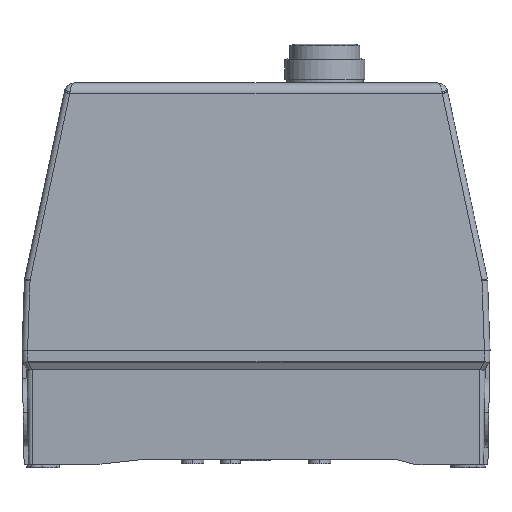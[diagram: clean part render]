
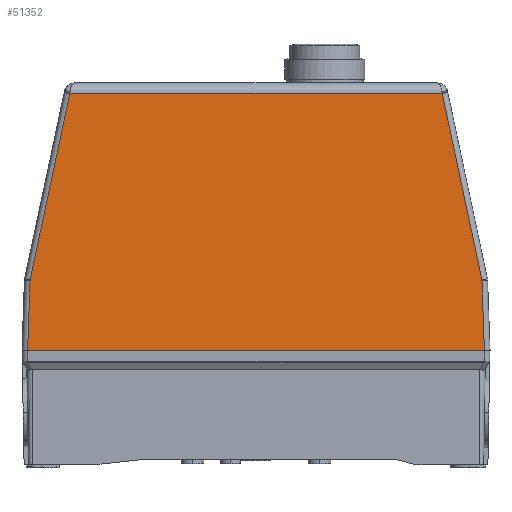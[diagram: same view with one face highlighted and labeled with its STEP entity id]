
A CAD part, left-side view. The second image highlights one B-rep face of the part: STEP entity #51352.
In plain terms, the highlighted planar face has unit normal (-1, 0, 0.023).
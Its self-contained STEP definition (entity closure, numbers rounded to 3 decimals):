
#46222=CARTESIAN_POINT('',(-41.939,-66.042,
-3.714));
#46239=DIRECTION('',(-0.023,0.035,-0.999));
#46240=VECTOR('',#46239,24.829);
#46241=CARTESIAN_POINT('',(-43.44,80.144,
-70.193));
#46242=LINE('',#46241,#46240);
#46243=CARTESIAN_POINT('',(-43.433,80.106,
-69.881));
#46244=CARTESIAN_POINT('',(-43.434,80.113,
-69.916));
#46245=CARTESIAN_POINT('',(-43.435,80.126,
-69.984));
#46246=CARTESIAN_POINT('',(-43.438,80.138,
-70.088));
#46247=CARTESIAN_POINT('',(-43.439,80.143,
-70.158));
#46248=CARTESIAN_POINT('',(-43.44,80.144,
-70.193));
#46250=DIRECTION('',(-0.022,0.208,-0.978));
#46251=VECTOR('',#46250,67.662);
#46252=CARTESIAN_POINT('',(-41.939,66.042,
-3.714));
#46253=LINE('',#46252,#46251);
#46254=DIRECTION('',(0.,1.,0.));
#46255=VECTOR('',#46254,132.083);
#46256=CARTESIAN_POINT('',(-41.939,-66.042,
-3.714));
#46257=LINE('',#46256,#46255);
#46258=DIRECTION('',(0.022,0.208,0.978));
#46259=VECTOR('',#46258,67.662);
#46260=CARTESIAN_POINT('',(-43.433,-80.106,
-69.881));
#46261=LINE('',#46260,#46259);
#46262=CARTESIAN_POINT('',(-43.44,-80.144,
-70.193));
#46263=CARTESIAN_POINT('',(-43.439,-80.143,
-70.158));
#46264=CARTESIAN_POINT('',(-43.438,-80.138,
-70.088));
#46265=CARTESIAN_POINT('',(-43.435,-80.126,
-69.984));
#46266=CARTESIAN_POINT('',(-43.434,-80.113,
-69.916));
#46267=CARTESIAN_POINT('',(-43.433,-80.106,
-69.881));
#46269=DIRECTION('',(0.023,0.035,0.999));
#46270=VECTOR('',#46269,24.829);
#46271=CARTESIAN_POINT('',(-44.,-81.01,-95.));
#46272=LINE('',#46271,#46270);
#46488=CARTESIAN_POINT('',(-44.,81.01,-95.));
#46494=DIRECTION('',(0.,1.,0.));
#46495=VECTOR('',#46494,162.021);
#46496=CARTESIAN_POINT('',(-44.,-81.01,-95.));
#46497=LINE('',#46496,#46495);
#46502=CARTESIAN_POINT('',(-44.,-81.01,-95.));
#50636=VERTEX_POINT('',#46488);
#50642=CARTESIAN_POINT('',(-43.44,80.144,
-70.193));
#50643=VERTEX_POINT('',#50642);
#50644=VERTEX_POINT('',#46243);
#50646=CARTESIAN_POINT('',(-41.939,66.042,
-3.714));
#50647=VERTEX_POINT('',#50646);
#50692=VERTEX_POINT('',#46222);
#50694=CARTESIAN_POINT('',(-43.433,-80.106,
-69.881));
#50695=VERTEX_POINT('',#50694);
#50698=VERTEX_POINT('',#46262);
#50701=VERTEX_POINT('',#46502);
#51331=CARTESIAN_POINT('',(-43.44,-99.6,-70.196));
#51332=DIRECTION('',(1.,0.,-0.023));
#51333=DIRECTION('',(-0.023,0.,-1.));
#51334=AXIS2_PLACEMENT_3D('',#51331,#51332,#51333);
#51335=PLANE('',#51334);
#51337=ORIENTED_EDGE('',*,*,#51336,.F.);
#51339=ORIENTED_EDGE('',*,*,#51338,.F.);
#51340=ORIENTED_EDGE('',*,*,#51321,.F.);
#51341=ORIENTED_EDGE('',*,*,#51268,.F.);
#51343=ORIENTED_EDGE('',*,*,#51342,.F.);
#51345=ORIENTED_EDGE('',*,*,#51344,.F.);
#51347=ORIENTED_EDGE('',*,*,#51346,.F.);
#51349=ORIENTED_EDGE('',*,*,#51348,.T.);
#51350=EDGE_LOOP('',(#51337,#51339,#51340,#51341,#51343,#51345,#51347,#51349));
#51351=FACE_OUTER_BOUND('',#51350,.F.);
#51352=ADVANCED_FACE('',(#51351),#51335,.F.);
#46249=B_SPLINE_CURVE_WITH_KNOTS('',3,(#46243,#46244,#46245,#46246,#46247,
#46248),.UNSPECIFIED.,.F.,.F.,(4,1,1,4),(0.,0.333,
0.667,1.),.UNSPECIFIED.);
#46268=B_SPLINE_CURVE_WITH_KNOTS('',3,(#46262,#46263,#46264,#46265,#46266,
#46267),.UNSPECIFIED.,.F.,.F.,(4,1,1,4),(0.,0.333,
0.667,1.),.UNSPECIFIED.);
#51268=EDGE_CURVE('',#50692,#50647,#46257,.T.);
#51321=EDGE_CURVE('',#50647,#50644,#46253,.T.);
#51336=EDGE_CURVE('',#50643,#50636,#46242,.T.);
#51338=EDGE_CURVE('',#50644,#50643,#46249,.T.);
#51342=EDGE_CURVE('',#50695,#50692,#46261,.T.);
#51344=EDGE_CURVE('',#50698,#50695,#46268,.T.);
#51346=EDGE_CURVE('',#50701,#50698,#46272,.T.);
#51348=EDGE_CURVE('',#50701,#50636,#46497,.T.);
